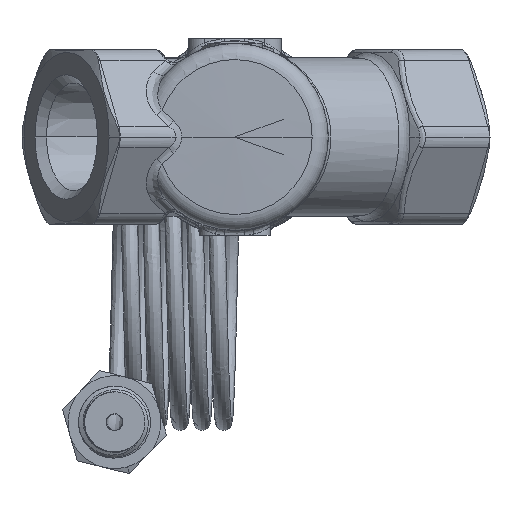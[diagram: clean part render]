
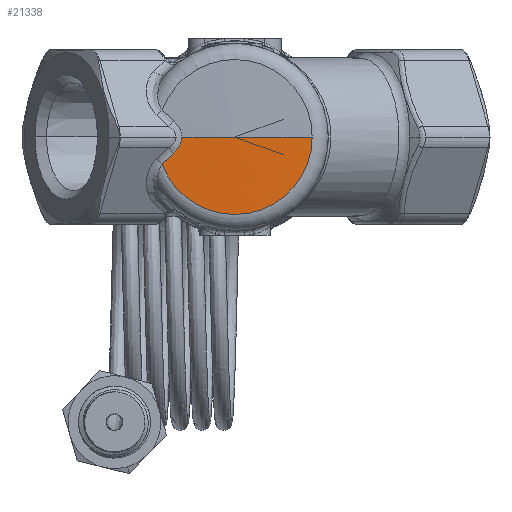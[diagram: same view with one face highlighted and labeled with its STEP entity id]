
A CAD part, front view. The second image highlights one B-rep face of the part: STEP entity #21338.
In plain terms, the highlighted conical face has half-angle 88.5 degrees and reference radius 14.178 mm.
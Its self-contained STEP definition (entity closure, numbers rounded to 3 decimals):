
#266 = DIRECTION ( 'NONE',  ( 1., 0.026, 0. ) ) ;
#483 = CONICAL_SURFACE ( 'NONE', #2748, 14.179, 1.545 ) ;
#1086 = CARTESIAN_POINT ( 'NONE',  ( -13.7, -56.996, -2.987 ) ) ;
#1588 = CARTESIAN_POINT ( 'NONE',  ( -13.287, -57.01, -2.585 ) ) ;
#2748 = AXIS2_PLACEMENT_3D ( 'NONE', #15915, #10547, #12697 ) ;
#3154 = CARTESIAN_POINT ( 'NONE',  ( -13.7, -56.996, -2.987 ) ) ;
#4972 = DIRECTION ( 'NONE',  ( 0., -1., 0. ) ) ;
#5053 = VERTEX_POINT ( 'NONE', #27994 ) ;
#5182 = FACE_OUTER_BOUND ( 'NONE', #19952, .T. ) ;
#6582 = CARTESIAN_POINT ( 'NONE',  ( -12.178, -57.047, -0.143 ) ) ;
#8154 = ORIENTED_EDGE ( 'NONE', *, *, #12034, .T. ) ;
#9289 = LINE ( 'NONE', #30921, #19204 ) ;
#9526 = VECTOR ( 'NONE', #266, 1000. ) ;
#9958 = CARTESIAN_POINT ( 'NONE',  ( -12.187, -57.046, -0.285 ) ) ;
#10547 = DIRECTION ( 'NONE',  ( 0., 1., 0. ) ) ;
#11957 = CARTESIAN_POINT ( 'NONE',  ( -12.924, -57.021, -2.142 ) ) ;
#12034 = EDGE_CURVE ( 'NONE', #13337, #19430, #16297, .T. ) ;
#12285 = CARTESIAN_POINT ( 'NONE',  ( -2.5, -57.3, 0. ) ) ;
#12296 = CARTESIAN_POINT ( 'NONE',  ( -12.759, -57.027, -1.904 ) ) ;
#12471 = CARTESIAN_POINT ( 'NONE',  ( -13.486, -57.003, -2.792 ) ) ;
#12484 = CARTESIAN_POINT ( 'NONE',  ( -2.5, -56.929, 0. ) ) ;
#12549 = VERTEX_POINT ( 'NONE', #16002 ) ;
#12697 = DIRECTION ( 'NONE',  ( 1., 0., 0. ) ) ;
#13337 = VERTEX_POINT ( 'NONE', #24254 ) ;
#13479 = CARTESIAN_POINT ( 'NONE',  ( 11.679, -56.929, 0. ) ) ;
#13914 = ORIENTED_EDGE ( 'NONE', *, *, #29145, .T. ) ;
#14994 = CARTESIAN_POINT ( 'NONE',  ( -12.256, -57.044, -0.712 ) ) ;
#15332 = CARTESIAN_POINT ( 'NONE',  ( -12.37, -57.04, -1.131 ) ) ;
#15915 = CARTESIAN_POINT ( 'NONE',  ( -2.5, -56.929, 0. ) ) ;
#16002 = CARTESIAN_POINT ( 'NONE',  ( 11.679, -56.929, 0. ) ) ;
#16297 = B_SPLINE_CURVE_WITH_KNOTS ( 'NONE', 3,
 ( #26393, #6582, #9958, #31750, #14994, #15332, #25880, #12296, #11957, #1588, #12471, #26218 ),
 .UNSPECIFIED., .F., .F.,
 ( 4, 2, 2, 2, 2, 4 ),
 ( 0.003, 0.004, 0.004, 0.005, 0.006, 0.007 ),
 .UNSPECIFIED. ) ;
#17323 = ORIENTED_EDGE ( 'NONE', *, *, #21984, .F. ) ;
#18720 = EDGE_CURVE ( 'NONE', #20274, #13337, #9289, .T. ) ;
#19204 = VECTOR ( 'NONE', #19653, 1000. ) ;
#19430 = VERTEX_POINT ( 'NONE', #3154 ) ;
#19653 = DIRECTION ( 'NONE',  ( -1., 0.026, 0. ) ) ;
#19952 = EDGE_LOOP ( 'NONE', ( #17323, #30847, #8154, #13914, #30693 ) ) ;
#20006 = CARTESIAN_POINT ( 'NONE',  ( -14.402, -56.974, -3.625 ) ) ;
#20274 = VERTEX_POINT ( 'NONE', #12285 ) ;
#21338 = ADVANCED_FACE ( 'NONE', ( #5182 ), #483, .T. ) ;
#21984 = EDGE_CURVE ( 'NONE', #20274, #12549, #30081, .T. ) ;
#22870 = EDGE_CURVE ( 'NONE', #5053, #12549, #30117, .T. ) ;
#23959 = B_SPLINE_CURVE_WITH_KNOTS ( 'NONE', 3,
 ( #1086, #20006, #25190, #27671 ),
 .UNSPECIFIED., .F., .F.,
 ( 4, 4 ),
 ( 0., 0.003 ),
 .UNSPECIFIED. ) ;
#24254 = CARTESIAN_POINT ( 'NONE',  ( -12.178, -57.047, 0. ) ) ;
#25190 = CARTESIAN_POINT ( 'NONE',  ( -15.103, -56.952, -4.264 ) ) ;
#25880 = CARTESIAN_POINT ( 'NONE',  ( -12.481, -57.036, -1.396 ) ) ;
#26218 = CARTESIAN_POINT ( 'NONE',  ( -13.7, -56.996, -2.987 ) ) ;
#26393 = CARTESIAN_POINT ( 'NONE',  ( -12.178, -57.047, 0. ) ) ;
#27671 = CARTESIAN_POINT ( 'NONE',  ( -15.804, -56.929, -4.904 ) ) ;
#27994 = CARTESIAN_POINT ( 'NONE',  ( -15.804, -56.929, -4.904 ) ) ;
#29145 = EDGE_CURVE ( 'NONE', #19430, #5053, #23959, .T. ) ;
#30081 = LINE ( 'NONE', #13479, #9526 ) ;
#30117 = CIRCLE ( 'NONE', #32412, 14.179 ) ;
#30693 = ORIENTED_EDGE ( 'NONE', *, *, #22870, .T. ) ;
#30847 = ORIENTED_EDGE ( 'NONE', *, *, #18720, .T. ) ;
#30921 = CARTESIAN_POINT ( 'NONE',  ( -16.679, -56.929, 0. ) ) ;
#31750 = CARTESIAN_POINT ( 'NONE',  ( -12.226, -57.045, -0.569 ) ) ;
#32412 = AXIS2_PLACEMENT_3D ( 'NONE', #12484, #4972, #35176 ) ;
#35176 = DIRECTION ( 'NONE',  ( -1., 0., 0. ) ) ;
